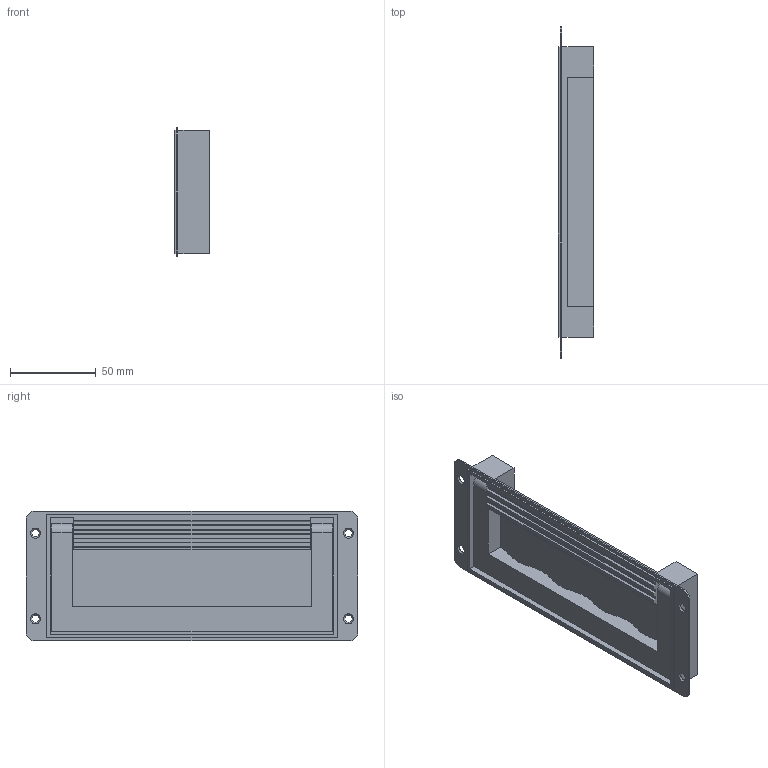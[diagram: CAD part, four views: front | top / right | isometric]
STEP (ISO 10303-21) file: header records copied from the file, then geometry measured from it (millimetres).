
FILE_DESCRIPTION((''),'2;1');
FILE_NAME('6451.50.stp','2014-12-01T11:06:53',(''),(''),'Mechanical Desktop 2006','Mechanical Desktop 2006',', , ');
FILE_SCHEMA(('CONFIG_CONTROL_DESIGN'));
Length unit declared in the file: millimetre
Products named in the file (3): 6451.50; TEIL1; TEIL2
Assembly tree (2 placements, depth 2):
  6451.50
    TEIL1
    TEIL2
Bounding box: 20.5 x 194 x 76 mm (x, y, z)
Volume: 86048.6 mm3; surface area: 62543 mm2
Topology: 2 solids, 2 shells, 89 faces, 245 edges, 163 vertices
Faces by surface type: plane 55, cylinder 26, cone 8
Entity records: 2994 total; most frequent: CARTESIAN_POINT 500, DIRECTION 497, ORIENTED_EDGE 490, EDGE_CURVE 245, VECTOR 177, LINE 177, VERTEX_POINT 163, AXIS2_PLACEMENT_3D 160
